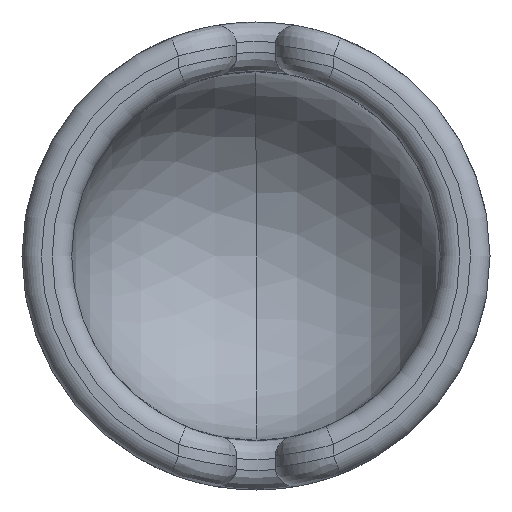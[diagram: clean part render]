
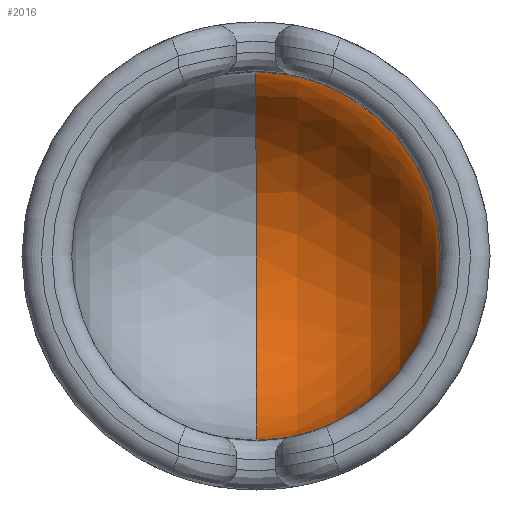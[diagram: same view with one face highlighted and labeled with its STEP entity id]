
A CAD part, front view. The second image highlights one B-rep face of the part: STEP entity #2016.
In plain terms, the highlighted spherical face has radius 7.541 mm.
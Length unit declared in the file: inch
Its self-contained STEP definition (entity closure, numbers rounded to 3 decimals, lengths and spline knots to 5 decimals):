
#39 = CIRCLE ( 'NONE', #2960, 0.29688 ) ;
#221 = CARTESIAN_POINT ( 'NONE',  ( 0., 1.625, 0. ) ) ;
#254 = CIRCLE ( 'NONE', #2126, 0.29688 ) ;
#284 = EDGE_CURVE ( 'NONE', #1156, #1201, #39, .T. ) ;
#416 = EDGE_CURVE ( 'NONE', #1156, #573, #254, .T. ) ;
#573 = VERTEX_POINT ( 'NONE', #3155 ) ;
#790 = EDGE_CURVE ( 'NONE', #1201, #573, #2614, .T. ) ;
#906 = CARTESIAN_POINT ( 'NONE',  ( 0., 1.625, -0.29688 ) ) ;
#1072 = DIRECTION ( 'NONE',  ( -1., 0., 0. ) ) ;
#1114 = DIRECTION ( 'NONE',  ( 0., 0., -1. ) ) ;
#1156 = VERTEX_POINT ( 'NONE', #1723 ) ;
#1201 = VERTEX_POINT ( 'NONE', #906 ) ;
#1284 = CARTESIAN_POINT ( 'NONE',  ( 0., 1.625, 0. ) ) ;
#1556 = DIRECTION ( 'NONE',  ( 0., 1., 0. ) ) ;
#1690 = EDGE_LOOP ( 'NONE', ( #2946, #3596, #2091 ) ) ;
#1723 = CARTESIAN_POINT ( 'NONE',  ( 0., 1.625, 0.29688 ) ) ;
#1841 = DIRECTION ( 'NONE',  ( 0., 0., 1. ) ) ;
#1916 = DIRECTION ( 'NONE',  ( -1., 0., 0. ) ) ;
#1949 = SPHERICAL_SURFACE ( 'NONE', #3023, 0.29688 ) ;
#1968 = DIRECTION ( 'NONE',  ( 1., 0., 0. ) ) ;
#2016 = ADVANCED_FACE ( 'NONE', ( #2255 ), #1949, .F. ) ;
#2091 = ORIENTED_EDGE ( 'NONE', *, *, #790, .F. ) ;
#2118 = AXIS2_PLACEMENT_3D ( 'NONE', #2821, #1968, #1114 ) ;
#2126 = AXIS2_PLACEMENT_3D ( 'NONE', #2172, #1916, #3587 ) ;
#2172 = CARTESIAN_POINT ( 'NONE',  ( 0., 1.625, 0. ) ) ;
#2255 = FACE_OUTER_BOUND ( 'NONE', #1690, .T. ) ;
#2614 = CIRCLE ( 'NONE', #2118, 0.29688 ) ;
#2821 = CARTESIAN_POINT ( 'NONE',  ( 0., 1.625, 0. ) ) ;
#2946 = ORIENTED_EDGE ( 'NONE', *, *, #284, .F. ) ;
#2960 = AXIS2_PLACEMENT_3D ( 'NONE', #1284, #1556, #1841 ) ;
#3023 = AXIS2_PLACEMENT_3D ( 'NONE', #221, #1072, #3056 ) ;
#3056 = DIRECTION ( 'NONE',  ( 0., 0., -1. ) ) ;
#3155 = CARTESIAN_POINT ( 'NONE',  ( 0., 1.92188, 0. ) ) ;
#3587 = DIRECTION ( 'NONE',  ( 0., 0., 1. ) ) ;
#3596 = ORIENTED_EDGE ( 'NONE', *, *, #416, .T. ) ;
